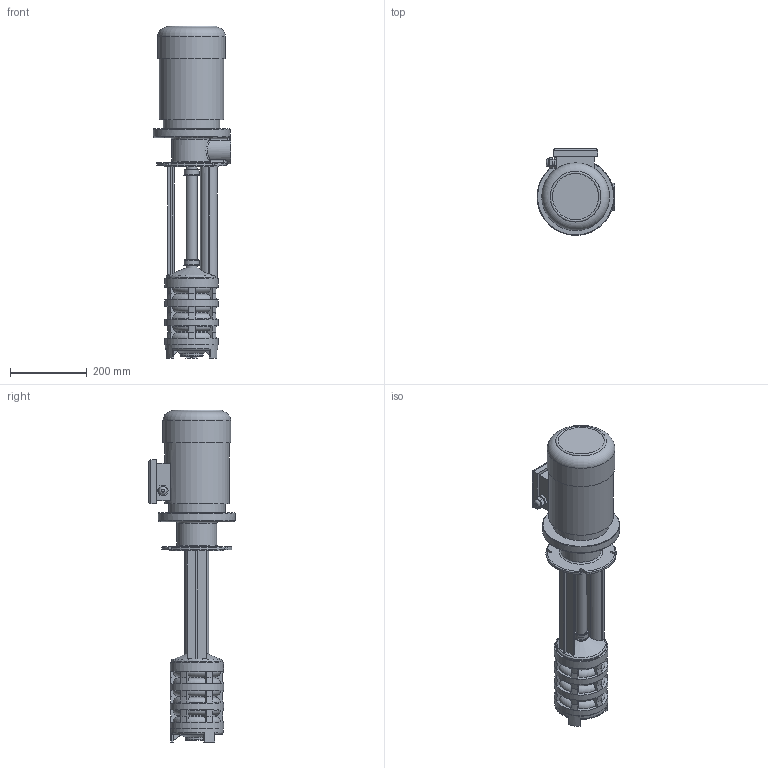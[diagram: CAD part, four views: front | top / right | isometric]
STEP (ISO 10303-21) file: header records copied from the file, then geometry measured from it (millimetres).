
FILE_DESCRIPTION(/* description */ ('Unknown'),/* implementation_level */ '2;1');
FILE_NAME(/* name */ 'gp4-500',/* time_stamp */ '2025-06-12T11:03:24+03:00',/* author */ ('Unknown'),/* organization */ ('Unknown'),/* preprocessor_version */ 'ST-DEVELOPER v16.7',/* originating_system */ 'DEX',/* authorisation */ $);
FILE_SCHEMA (('AUTOMOTIVE_DESIGN {1 0 10303 214 3 1 1}'));
Length unit declared in the file: millimetre
Products named in the file (1): gp4-500
Bounding box: 202 x 225 x 863.33 mm (x, y, z)
Volume: 11797835.2 mm3; surface area: 581538.5 mm2
Topology: 1 solids, 1 shells, 430 faces, 1128 edges, 731 vertices
Faces by surface type: plane 146, cylinder 86, bspline 84, cone 61, torus 53
Full cylindrical faces by diameter (mm): 17 x1, 21.5 x1, 29 x3, 33 x2, 35 x2, 39 x2, 40.5 x2, 45 x1, 47 x1, 60 x1, 137 x1, 139 x4, 140 x1, 168.001 x1, 176 x1, 200 x1
Entity records: 15841 total; most frequent: CARTESIAN_POINT 5836, ORIENTED_EDGE 2120, DIRECTION 1931, EDGE_CURVE 1060, AXIS2_PLACEMENT_3D 731, VERTEX_POINT 718, EDGE_LOOP 520, FACE_BOUND 520
